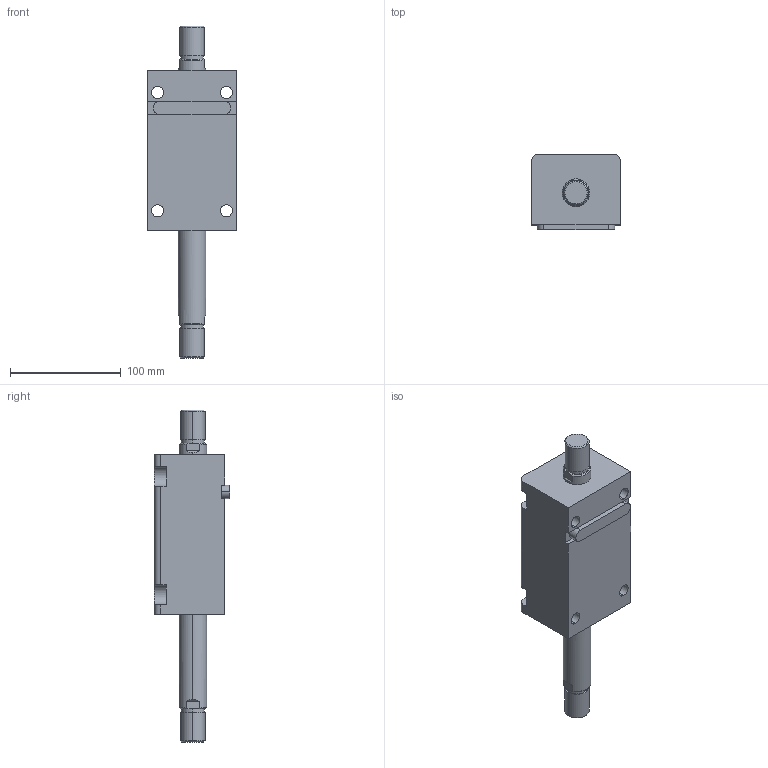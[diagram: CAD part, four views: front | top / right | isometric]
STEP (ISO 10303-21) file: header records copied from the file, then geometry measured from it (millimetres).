
FILE_DESCRIPTION (( 'STEP AP203' ), '1' );
FILE_NAME ('HTB-LW40-80W.STEP', '2019-10-09T07:58:35', ( '微软用户' ), ( '微软中国' ), 'SwSTEP 2.0', 'SolidWorks 2012', '' );
FILE_SCHEMA (( 'CONFIG_CONTROL_DESIGN' ));
Length unit declared in the file: millimetre
Products named in the file (4): HTB-LW40-80W; HTB-LA40-瑩; HTB-LW40-80W活塞杆; HTB-LW40-80掛极
Assembly tree (3 placements, depth 2):
  HTB-LW40-80W
    HTB-LW40-80掛极
    HTB-LW40-80W活塞杆
    HTB-LA40-瑩
Bounding box: 80 x 68.5 x 300 mm (x, y, z)
Volume: 719957.3 mm3; surface area: 105670 mm2
Topology: 3 solids, 3 shells, 113 faces, 273 edges, 178 vertices
Faces by surface type: plane 48, cylinder 45, cone 12, torus 8
Entity records: 3779 total; most frequent: CARTESIAN_POINT 622, DIRECTION 617, ORIENTED_EDGE 546, EDGE_CURVE 273, AXIS2_PLACEMENT_3D 241, VERTEX_POINT 178, EDGE_LOOP 135, VECTOR 135
